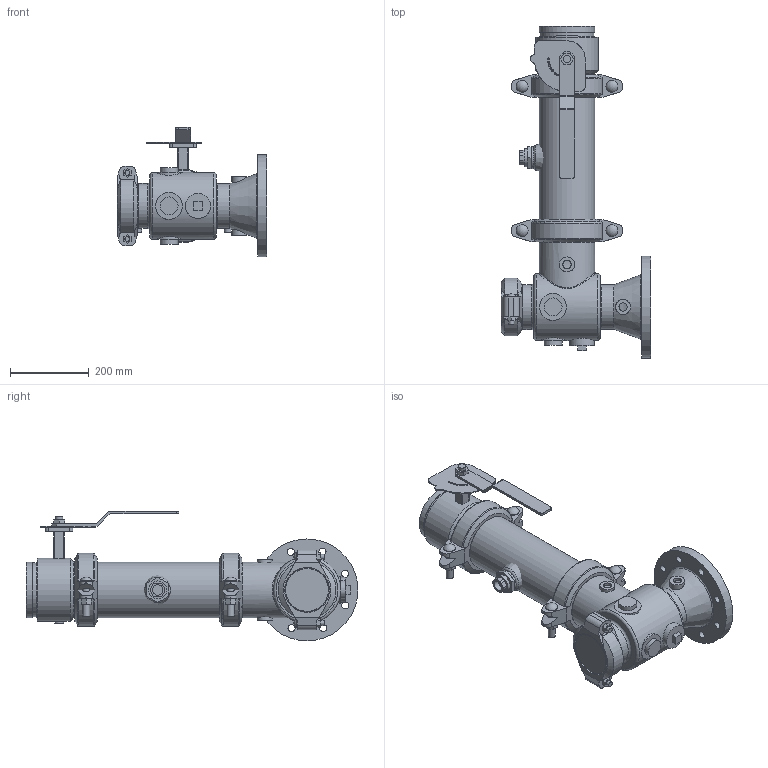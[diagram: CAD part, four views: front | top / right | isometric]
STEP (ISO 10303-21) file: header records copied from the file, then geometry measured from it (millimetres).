
FILE_DESCRIPTION(/* description */ ('VIC SVI PUMP DROP HORZ S/391 (OGSxFLG)','CAx-IF Rec.Pracs.---Representation and Presentation of Product Manufacturing Information (PMI)---4.0---2014-10-13'),/* implementation_level */ '2;1');
FILE_NAME(/* name */ 'C:\Users\kkamble\AppData\Roaming\Autodesk\ApplicationPlugins\Back Up\Victaulic_PN10_Series 391 (OGSxFLG)\Victaulic_PN10_Series 391 (OGSxFLG)_05.0x05.0 (125x125).stp',/* time_stamp */ '2020-11-26T23:44:22+05:00',/* author */ ('kkamble'),/* organization */ ('Victaulic'),/* preprocessor_version */ 'ST-DEVELOPER v17.2',/* originating_system */ 'Autodesk Inventor 2019',/* authorisation */ '');
FILE_SCHEMA (('AP242_MANAGED_MODEL_BASED_3D_ENGINEERING_MIM_LF { 1 0 10303 442 1 1 4 }'));
Length unit declared in the file: inch
Products named in the file (9): 391-05.0x05.0; 731D-05.0x05.0; 731D-05.0x05.0_1; 731D-05.0; 07-04.0; PIPE-05.0; 177N-05.0; 761-05.0; 923-04.0x0.75
Assembly tree (9 placements, depth 3):
  391-05.0x05.0
    731D-05.0x05.0
      731D-05.0x05.0_1
      731D-05.0
      07-04.0
    177N-05.0  x2
    PIPE-05.0
    761-05.0
    923-04.0x0.75
Bounding box: 381 x 843.53 x 329.95 mm (x, y, z)
Volume: 8409398.5 mm3; surface area: 1405764.7 mm2
Topology: 8 solids, 11 shells, 532 faces, 1378 edges, 930 vertices
Faces by surface type: plane 298, cylinder 191, cone 19, torus 17, sphere 6, bspline 1
Full cylindrical faces by diameter (mm): 4.826 x10, 8.636 x4, 12.7 x4, 17.78 x4, 18.009 x8, 19.05 x2, 20.955 x4, 22.225 x2, 22.86 x1, 26.67 x1, 30.48 x4, 38.1 x4, 45.72 x3, 45.974 x2, 55.118 x1, 55.626 x1, 63.5 x1, 84.074 x1, 90.678 x1, 96.52 x1, 107.95 x1, 110.084 x2, 113.03 x1, 114.3 x5, 121.412 x1, 127 x1, 128.194 x2, 128.6 x2, 137.033 x5, 141.3 x13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
Entity records: 15629 total; most frequent: CARTESIAN_POINT 3543, DIRECTION 2485, ORIENTED_EDGE 2276, EDGE_CURVE 1138, AXIS2_PLACEMENT_3D 948, VERTEX_POINT 771, LINE 589, VECTOR 589
